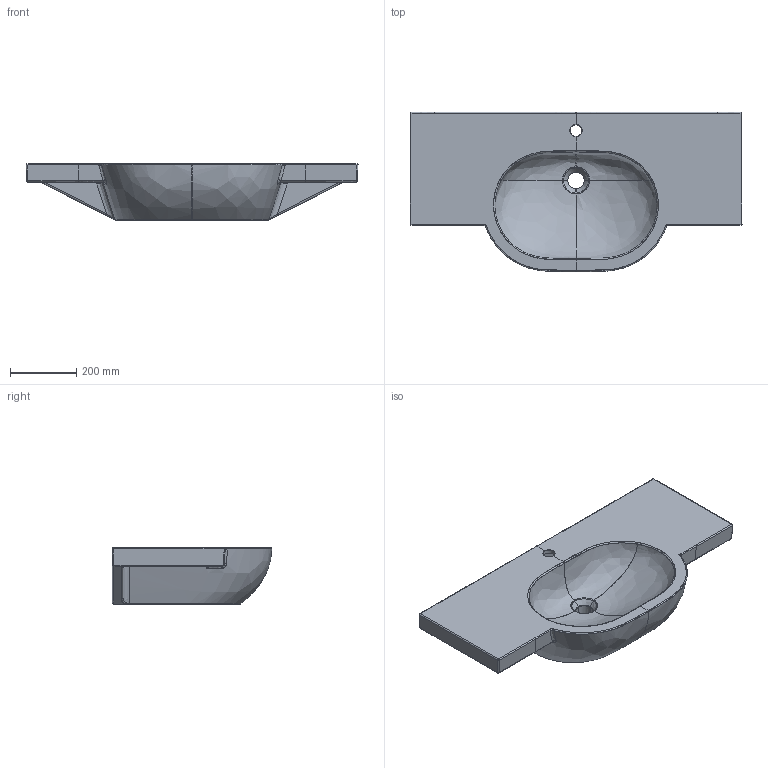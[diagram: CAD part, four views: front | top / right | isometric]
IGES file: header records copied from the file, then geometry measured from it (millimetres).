
Start section: START RECORD GO HERE.
Global section: file name: ART 5236 Lavabo M2 100x48.igs; native system: DASSAULT SYSTEMES CATIA V5 R19 - www.3ds.com; preprocessor: CATIA Version 5 Release 19 SP 5 ; author: Luca; organization: DESKTOP-V7SON24; date: 20201026.103609; units: millimetre
Bounding box: 999.67 x 479.98 x 170 mm (x, y, z)
Surface area: 1365156.1 mm2 (no closed solid volume)
Topology: 0 solids, 0 shells, 346 faces, 1583 edges, 1558 vertices
Faces by surface type: bspline 174, revolution 138, plane 34
